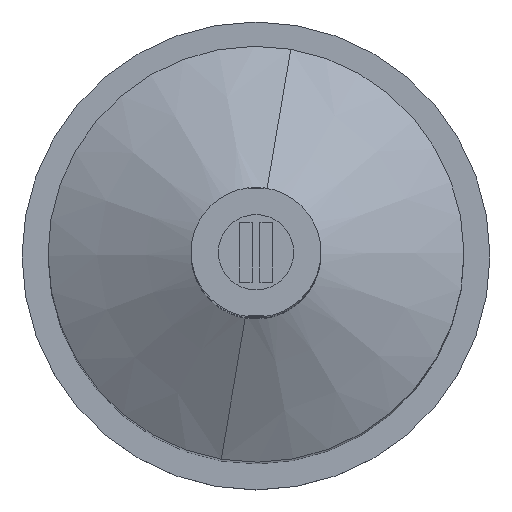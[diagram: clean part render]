
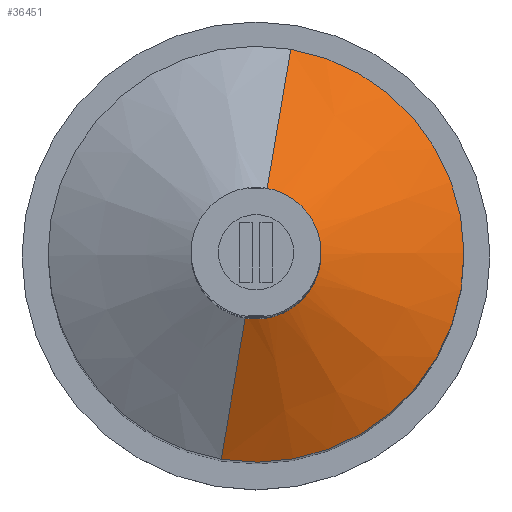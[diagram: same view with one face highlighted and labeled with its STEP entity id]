
A CAD part, top view. The second image highlights one B-rep face of the part: STEP entity #36451.
In plain terms, the highlighted conical face has half-angle 62 degrees and reference radius 2.358 mm.
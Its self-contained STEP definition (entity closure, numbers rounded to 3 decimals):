
#36451 = ADVANCED_FACE ( 'NONE', ( #300791 ), #300923, .T. ) ;
#79964 = EDGE_CURVE ( 'NONE', #112465, #112625, #146839, .T. ) ;
#79967 = EDGE_CURVE ( 'NONE', #112562, #112625, #146832, .T. ) ;
#79979 = EDGE_CURVE ( 'NONE', #112406, #112465, #146842, .T. ) ;
#80077 = EDGE_CURVE ( 'NONE', #112562, #112406, #146889, .T. ) ;
#84487 = ORIENTED_EDGE ( 'NONE', *, *, #79964, .F. ) ;
#84493 = ORIENTED_EDGE ( 'NONE', *, *, #79967, .T. ) ;
#84496 = ORIENTED_EDGE ( 'NONE', *, *, #80077, .F. ) ;
#84497 = ORIENTED_EDGE ( 'NONE', *, *, #79979, .F. ) ;
#112406 = VERTEX_POINT ( 'NONE', #174752 ) ;
#112465 = VERTEX_POINT ( 'NONE', #174782 ) ;
#112562 = VERTEX_POINT ( 'NONE', #174826 ) ;
#112625 = VERTEX_POINT ( 'NONE', #174859 ) ;
#131337 = AXIS2_PLACEMENT_3D ( 'NONE', #163200, #163206, #163208 ) ;
#131376 = AXIS2_PLACEMENT_3D ( 'NONE', #163340, #163385, #163387 ) ;
#146822 = VECTOR ( 'NONE', #163213, 1000. ) ;
#146832 = LINE ( 'NONE', #163211, #146822 ) ;
#146836 = VECTOR ( 'NONE', #163225, 1000. ) ;
#146839 = CIRCLE ( 'NONE', #131337, 8. ) ;
#146842 = LINE ( 'NONE', #163210, #146836 ) ;
#146889 = CIRCLE ( 'NONE', #131376, 2.358 ) ;
#163200 = CARTESIAN_POINT ( 'NONE',  ( -0.368, 0.088, -23. ) ) ;
#163206 = DIRECTION ( 'NONE',  ( 0., 0., -1. ) ) ;
#163208 = DIRECTION ( 'NONE',  ( 0.167, 0.986, 0. ) ) ;
#163210 = CARTESIAN_POINT ( 'NONE',  ( 0.026, 2.413, -20. ) ) ;
#163211 = CARTESIAN_POINT ( 'NONE',  ( -0.763, -2.237, -20. ) ) ;
#163213 = DIRECTION ( 'NONE',  ( -0.148, -0.871, -0.469 ) ) ;
#163225 = DIRECTION ( 'NONE',  ( 0.148, 0.871, -0.469 ) ) ;
#163340 = CARTESIAN_POINT ( 'NONE',  ( -0.368, 0.088, -20. ) ) ;
#163385 = DIRECTION ( 'NONE',  ( 0., 0., 1. ) ) ;
#163387 = DIRECTION ( 'NONE',  ( 0.167, 0.986, 0. ) ) ;
#174752 = CARTESIAN_POINT ( 'NONE',  ( 0.026, 2.413, -20. ) ) ;
#174782 = CARTESIAN_POINT ( 'NONE',  ( 0.969, 7.975, -23. ) ) ;
#174826 = CARTESIAN_POINT ( 'NONE',  ( -0.763, -2.237, -20. ) ) ;
#174859 = CARTESIAN_POINT ( 'NONE',  ( -1.706, -7.799, -23. ) ) ;
#211288 = DIRECTION ( 'NONE',  ( -0.167, -0.986, 0. ) ) ;
#211294 = DIRECTION ( 'NONE',  ( 0., 0., -1. ) ) ;
#211306 = CARTESIAN_POINT ( 'NONE',  ( -0.368, 0.088, -20. ) ) ;
#243784 = EDGE_LOOP ( 'NONE', ( #84497, #84496, #84493, #84487 ) ) ;
#300791 = FACE_OUTER_BOUND ( 'NONE', #243784, .T. ) ;
#300923 = CONICAL_SURFACE ( 'NONE', #313205, 2.358, 1.082 ) ;
#313205 = AXIS2_PLACEMENT_3D ( 'NONE', #211306, #211294, #211288 ) ;
